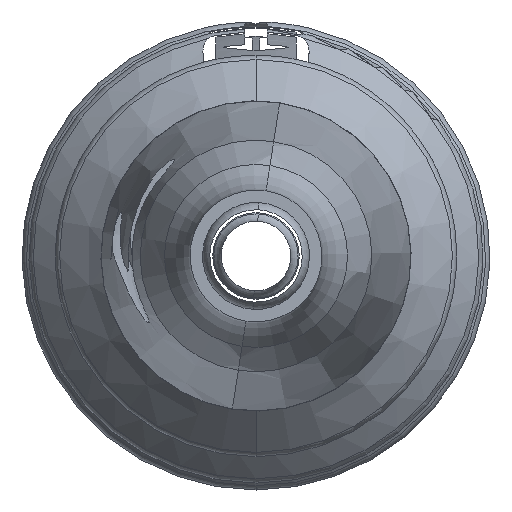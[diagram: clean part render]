
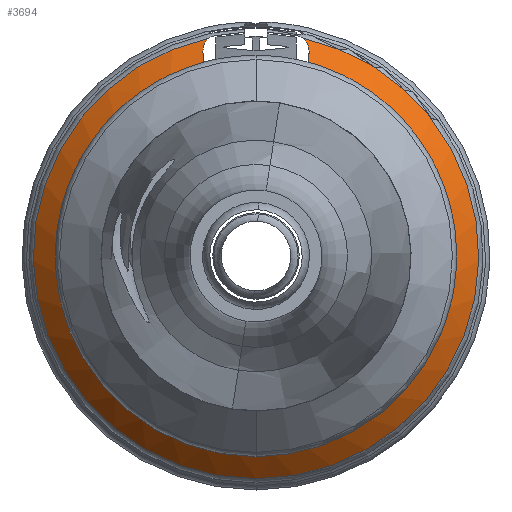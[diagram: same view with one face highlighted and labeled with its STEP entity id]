
A CAD part, front view. The second image highlights one B-rep face of the part: STEP entity #3694.
In plain terms, the highlighted conical face has half-angle 44 degrees and reference radius 13.563 mm.
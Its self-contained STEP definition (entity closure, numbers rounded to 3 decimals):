
#1103=CARTESIAN_POINT('',(0.,3.805,0.));
#1104=DIRECTION('',(0.,-1.,0.));
#1105=DIRECTION('',(-0.213,0.,0.977));
#1106=AXIS2_PLACEMENT_3D('',#1103,#1104,#1105);
#1127=CARTESIAN_POINT('',(0.,2.217,0.));
#1128=DIRECTION('',(0.,-1.,0.));
#1129=DIRECTION('',(-0.266,0.,0.964));
#1130=AXIS2_PLACEMENT_3D('',#1127,#1128,#1129);
#1132=CARTESIAN_POINT('',(3.404,2.217,12.335));
#1133=CARTESIAN_POINT('',(3.405,2.309,12.427));
#1134=CARTESIAN_POINT('',(3.406,2.495,12.613));
#1135=CARTESIAN_POINT('',(3.408,2.777,12.894));
#1136=CARTESIAN_POINT('',(3.409,2.965,13.082));
#1137=CARTESIAN_POINT('',(3.41,3.06,13.176));
#1139=CARTESIAN_POINT('',(3.41,3.06,13.176));
#1140=CARTESIAN_POINT('',(3.41,3.094,13.21));
#1141=CARTESIAN_POINT('',(3.408,3.157,13.274));
#1142=CARTESIAN_POINT('',(3.397,3.242,13.361));
#1143=CARTESIAN_POINT('',(3.382,3.315,13.438));
#1144=CARTESIAN_POINT('',(3.365,3.379,13.505));
#1145=CARTESIAN_POINT('',(3.345,3.434,13.565));
#1146=CARTESIAN_POINT('',(3.323,3.485,13.621));
#1147=CARTESIAN_POINT('',(3.298,3.535,13.677));
#1148=CARTESIAN_POINT('',(3.269,3.584,13.732));
#1149=CARTESIAN_POINT('',(3.235,3.632,13.788));
#1150=CARTESIAN_POINT('',(3.198,3.678,13.842));
#1151=CARTESIAN_POINT('',(3.155,3.722,13.896));
#1152=CARTESIAN_POINT('',(3.107,3.764,13.949));
#1153=CARTESIAN_POINT('',(3.068,3.792,13.984));
#1154=CARTESIAN_POINT('',(3.047,3.805,14.002));
#1156=CARTESIAN_POINT('',(-3.047,3.805,14.002));
#1157=CARTESIAN_POINT('',(-3.071,3.79,13.982));
#1158=CARTESIAN_POINT('',(-3.114,3.759,13.942));
#1159=CARTESIAN_POINT('',(-3.163,3.714,13.886));
#1160=CARTESIAN_POINT('',(-3.204,3.671,13.834));
#1161=CARTESIAN_POINT('',(-3.239,3.628,13.783));
#1162=CARTESIAN_POINT('',(-3.27,3.582,13.73));
#1163=CARTESIAN_POINT('',(-3.298,3.536,13.678));
#1164=CARTESIAN_POINT('',(-3.322,3.488,13.624));
#1165=CARTESIAN_POINT('',(-3.343,3.44,13.572));
#1166=CARTESIAN_POINT('',(-3.361,3.391,13.519));
#1167=CARTESIAN_POINT('',(-3.376,3.339,13.463));
#1168=CARTESIAN_POINT('',(-3.39,3.282,13.402));
#1169=CARTESIAN_POINT('',(-3.401,3.217,13.335));
#1170=CARTESIAN_POINT('',(-3.408,3.144,13.26));
#1171=CARTESIAN_POINT('',(-3.41,3.089,13.205));
#1172=CARTESIAN_POINT('',(-3.41,3.06,13.176));
#1174=CARTESIAN_POINT('',(-3.41,3.06,13.176));
#1175=CARTESIAN_POINT('',(-3.409,2.968,13.085));
#1176=CARTESIAN_POINT('',(-3.408,2.784,12.901));
#1177=CARTESIAN_POINT('',(-3.406,2.503,12.62));
#1178=CARTESIAN_POINT('',(-3.405,2.312,12.43));
#1179=CARTESIAN_POINT('',(-3.404,2.217,12.335));
#3238=CARTESIAN_POINT('',(-3.404,2.217,12.335));
#3239=CARTESIAN_POINT('',(3.404,2.217,12.335));
#3240=VERTEX_POINT('',#3238);
#3241=VERTEX_POINT('',#3239);
#3264=CARTESIAN_POINT('',(-3.047,3.805,14.002));
#3265=CARTESIAN_POINT('',(3.047,3.805,14.002));
#3266=VERTEX_POINT('',#3264);
#3267=VERTEX_POINT('',#3265);
#3314=VERTEX_POINT('',#1137);
#3317=VERTEX_POINT('',#1172);
#3676=CARTESIAN_POINT('',(0.,3.011,0.));
#3677=DIRECTION('',(0.,1.,0.));
#3678=DIRECTION('',(0.,0.,-1.));
#3679=AXIS2_PLACEMENT_3D('',#3676,#3677,#3678);
#3680=CONICAL_SURFACE('',#3679,13.563,44.);
#3682=ORIENTED_EDGE('',*,*,#3681,.T.);
#3684=ORIENTED_EDGE('',*,*,#3683,.T.);
#3686=ORIENTED_EDGE('',*,*,#3685,.T.);
#3687=ORIENTED_EDGE('',*,*,#3667,.F.);
#3689=ORIENTED_EDGE('',*,*,#3688,.T.);
#3691=ORIENTED_EDGE('',*,*,#3690,.T.);
#3692=EDGE_LOOP('',(#3682,#3684,#3686,#3687,#3689,#3691));
#3693=FACE_OUTER_BOUND('',#3692,.F.);
#3694=ADVANCED_FACE('',(#3693),#3680,.T.);
#1107=CIRCLE('',#1106,14.33);
#1131=CIRCLE('',#1130,12.796);
#1138=B_SPLINE_CURVE_WITH_KNOTS('',3,(#1132,#1133,#1134,#1135,#1136,#1137),
.UNSPECIFIED.,.F.,.F.,(4,1,1,4),(0.,0.333,0.667,1.),
.UNSPECIFIED.);
#1155=B_SPLINE_CURVE_WITH_KNOTS('',3,(#1139,#1140,#1141,#1142,#1143,#1144,#1145,
#1146,#1147,#1148,#1149,#1150,#1151,#1152,#1153,#1154),.UNSPECIFIED.,.F.,.F.,(4,
1,1,1,1,1,1,1,1,1,1,1,1,4),(0.,0.077,0.154,
0.231,0.308,0.385,0.462,
0.538,0.615,0.692,0.769,
0.846,0.923,1.),.UNSPECIFIED.);
#1173=B_SPLINE_CURVE_WITH_KNOTS('',3,(#1156,#1157,#1158,#1159,#1160,#1161,#1162,
#1163,#1164,#1165,#1166,#1167,#1168,#1169,#1170,#1171,#1172),.UNSPECIFIED.,.F.,
.F.,(4,1,1,1,1,1,1,1,1,1,1,1,1,1,4),(0.,0.071,0.143,
0.214,0.286,0.357,0.429,0.5,
0.571,0.643,0.714,0.786,
0.857,0.929,1.),.UNSPECIFIED.);
#1180=B_SPLINE_CURVE_WITH_KNOTS('',3,(#1174,#1175,#1176,#1177,#1178,#1179),
.UNSPECIFIED.,.F.,.F.,(4,1,1,4),(0.,0.333,0.667,1.),
.UNSPECIFIED.);
#3667=EDGE_CURVE('',#3266,#3267,#1107,.T.);
#3681=EDGE_CURVE('',#3240,#3241,#1131,.T.);
#3683=EDGE_CURVE('',#3241,#3314,#1138,.T.);
#3685=EDGE_CURVE('',#3314,#3267,#1155,.T.);
#3688=EDGE_CURVE('',#3266,#3317,#1173,.T.);
#3690=EDGE_CURVE('',#3317,#3240,#1180,.T.);
